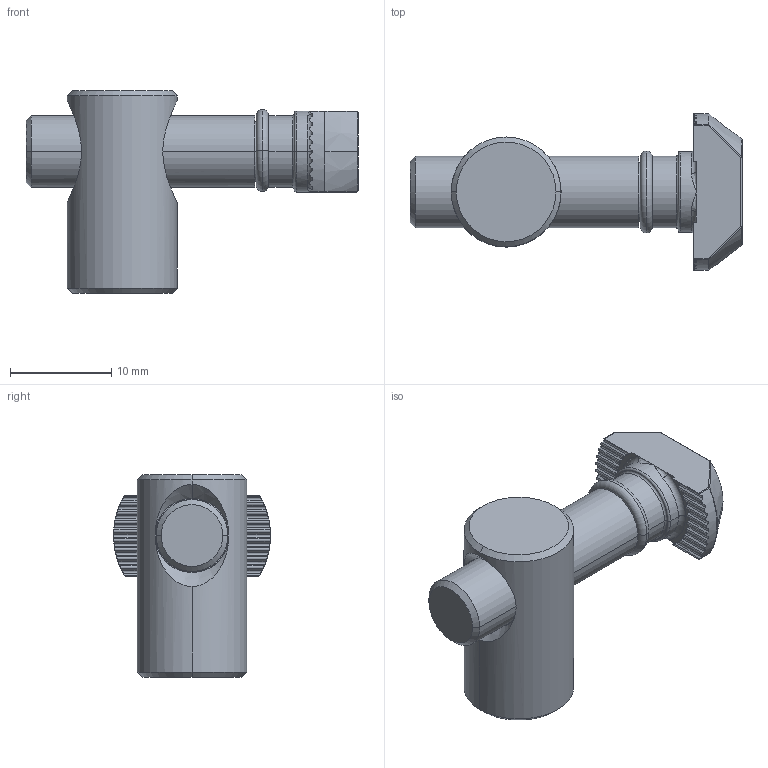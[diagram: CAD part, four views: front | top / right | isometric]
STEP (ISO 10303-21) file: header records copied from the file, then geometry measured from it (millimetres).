
FILE_DESCRIPTION (( 'STEP AP214' ), '1' );
FILE_NAME ('099b08110790.STEP', '2012-12-10T09:54:30', ( '' ), ( '' ), 'SwSTEP 2.0', 'SolidWorks 2012', '' );
FILE_SCHEMA (( 'AUTOMOTIVE_DESIGN' ));
Length unit declared in the file: millimetre
Products named in the file (5): Dichtring DIN7603 (eingebaut)_Standard; 4din914m0810m_4din914m0810m; 099b08110790-2_Standard; 099b08110700-1_Standard; 099b08110790
Assembly tree (4 placements, depth 2):
  099b08110790
    099b08110700-1_Standard
    099b08110790-2_Standard
    4din914m0810m_4din914m0810m
    Dichtring DIN7603 (eingebaut)_Standard
Bounding box: 32.8 x 15.5 x 20 mm (x, y, z)
Volume: 2772.1 mm3; surface area: 2968.5 mm2
Topology: 4 solids, 4 shells, 356 faces, 860 edges, 502 vertices
Faces by surface type: cylinder 135, cone 112, plane 67, torus 21, bspline 11, sphere 10
Entity records: 13109 total; most frequent: CARTESIAN_POINT 5035, ORIENTED_EDGE 1700, DIRECTION 1542, EDGE_CURVE 850, AXIS2_PLACEMENT_3D 628, VERTEX_POINT 502, EDGE_LOOP 362, FACE_OUTER_BOUND 356
